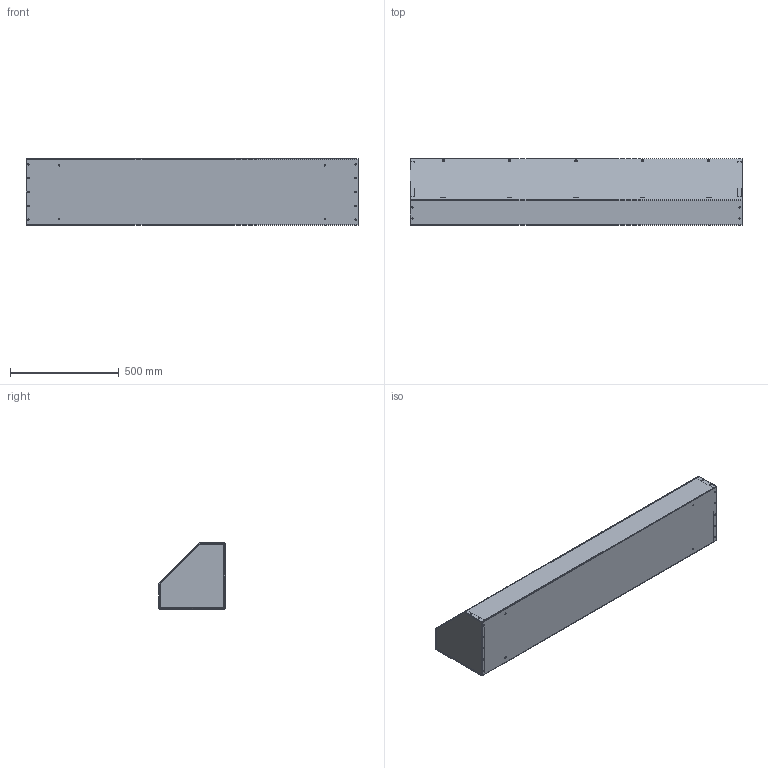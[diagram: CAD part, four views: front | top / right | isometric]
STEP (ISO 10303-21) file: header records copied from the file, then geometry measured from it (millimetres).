
FILE_DESCRIPTION (( 'STEP AP203' ), '1' );
FILE_NAME ('at121260.STEP', '2017-10-03T15:50:00', ( '' ), ( '' ), 'SwSTEP 2.0', 'SolidWorks 2014', '' );
FILE_SCHEMA (( 'CONFIG_CONTROL_DESIGN' ));
Length unit declared in the file: inch
Products named in the file (7): 89159124; 16111002_INSTALLED .144 THICKNESS; 89159163; 89159142; 87780048; at121260; 89159119
Assembly tree (34 placements, depth 3):
  at121260
    89159163
      89159119
      89159124  x2
      16111002_INSTALLED .144 THICKNESS  x28
    89159142
    87780048
Bounding box: 1524 x 306.63 x 306.63 mm (x, y, z)
Volume: 3481181.6 mm3; surface area: 3840574.8 mm2
Topology: 33 solids, 33 shells, 1193 faces, 2788 edges, 1684 vertices
Faces by surface type: cylinder 474, plane 403, cone 168, bspline 128, torus 20
Entity records: 18697 total; most frequent: CARTESIAN_POINT 3383, DIRECTION 2948, ORIENTED_EDGE 2826, EDGE_CURVE 1413, AXIS2_PLACEMENT_3D 1020, LINE 908, VECTOR 908, VERTEX_POINT 899
